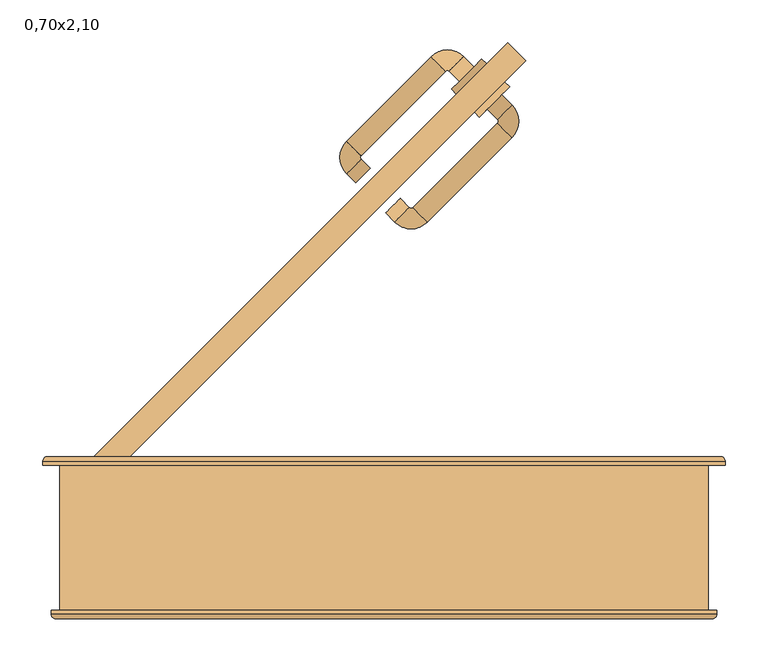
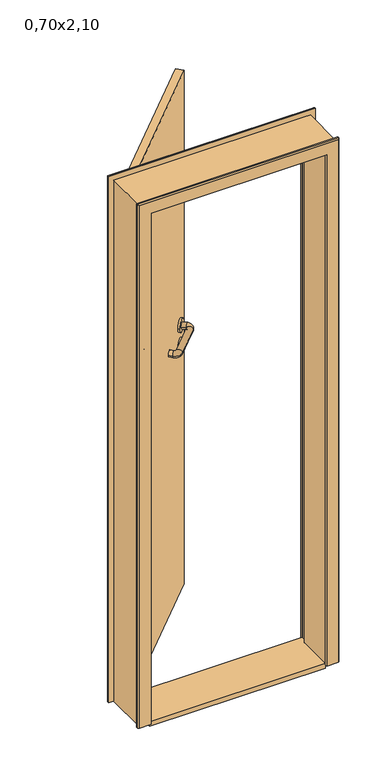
"""IFC4 building model written with IfcOpenShell, lengths in millimetres: door geometry, porta de abrir simples : 0,70x2,10."""

from ifc_helpers import new_model, si_unit, point, frame, frame_2d, origin, origin_with_axes, place, context, project, spatial, polyline, circle_curve, ellipse_curve, trimmed, segment, composite_curve, outline, extrude, faceted_brep, source, transform, mapped, element, save
from ifc_brep_helpers import plane_surface, cylinder_surface, revolved_surface, advanced_brep


def door_0_70x2_10_7b4c54ac(model_context):
    return source(origin(), model_context, "Body", "SolidModel", [
        advanced_brep(
        [(120.9331163, 502.1930009, 1100.0), (137.903679, 519.1635636, 1100.0), (132.9539315, 490.1721856, 1100.0), (149.9244943, 507.1427484, 1100.0), (149.9244943, 468.9589822, 1100.0), (132.9539315, 485.9295449, 1100.0), (33.9589822, 386.9345956, 1100.0), (50.9295449, 369.9640328, 1100.0), (12.7457787, 369.9640328, 1100.0), (29.7163415, 386.9345956, 1100.0), (19.1097398, 397.5411973, 1100.0), (2.139177, 380.5706345, 1100.0)],
        [
            (0, 1, circle_curve(frame((129.4183976, 510.6782823, 1100.0), z_axis=(-0.7071067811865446, 0.7071067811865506, 0.0), x_axis=(0.7071067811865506, 0.7071067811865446, 0.0)), 12.0)),
            (1, 0, circle_curve(frame((129.4183976, 510.6782823, 1100.0), z_axis=(-0.7071067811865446, 0.7071067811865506, 0.0), x_axis=(0.7071067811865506, 0.7071067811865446, 0.0)), 12.0)),
            (0, 2),
            (2, 3, circle_curve(frame((141.4392129, 498.657467, 1100.0), z_axis=(-0.7071067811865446, 0.7071067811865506, 0.0), x_axis=(0.7071067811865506, 0.7071067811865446, 0.0)), 12.0)),
            (3, 1),
            (3, 2, circle_curve(frame((141.4392129, 498.657467, 1100.0), z_axis=(-0.7071067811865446, 0.7071067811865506, 0.0), x_axis=(0.7071067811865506, 0.7071067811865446, 0.0)), 12.0)),
            (4, 3, circle_curve(frame((130.8326112, 488.0508653, 1100.0), z_axis=(0.0, 0.0, 1.0), x_axis=(0.7071067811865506, 0.7071067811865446, 0.0)), 27.0)),
            (2, 5, circle_curve(frame((130.8326112, 488.0508653, 1100.0), z_axis=(0.0, 0.0, -1.0), x_axis=(0.7071067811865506, 0.7071067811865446, 0.0)), 3.0)),
            (5, 4, circle_curve(frame((141.4392129, 477.4442636, 1100.0), z_axis=(0.7071067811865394, 0.7071067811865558, 0.0), x_axis=(0.7071067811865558, -0.7071067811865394, 0.0)), 12.0)),
            (4, 5, circle_curve(frame((141.4392129, 477.4442636, 1100.0), z_axis=(0.7071067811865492, 0.7071067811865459, 0.0), x_axis=(0.7071067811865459, -0.7071067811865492, 0.0)), 12.0)),
            (5, 6),
            (6, 7, circle_curve(frame((42.4442636, 378.4493142, 1100.0), z_axis=(0.7071067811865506, 0.7071067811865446, 0.0), x_axis=(0.7071067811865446, -0.7071067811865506, 0.0)), 12.0)),
            (7, 4),
            (7, 6, circle_curve(frame((42.4442636, 378.4493142, 1100.0), z_axis=(0.7071067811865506, 0.7071067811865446, 0.0), x_axis=(0.7071067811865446, -0.7071067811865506, 0.0)), 12.0)),
            (8, 7, circle_curve(frame((31.8376618, 389.0559159, 1100.0), z_axis=(0.0, 0.0, 1.0), x_axis=(0.7071067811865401, -0.707106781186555, 0.0)), 27.0)),
            (6, 9, circle_curve(frame((31.8376618, 389.0559159, 1100.0), z_axis=(0.0, 0.0, -1.0), x_axis=(0.7071067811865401, -0.707106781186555, 0.0)), 3.0)),
            (9, 8, circle_curve(frame((21.2310601, 378.4493142, 1100.0), z_axis=(0.7071067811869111, -0.7071067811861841, 0.0), x_axis=(-0.7071067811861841, -0.7071067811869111, 0.0)), 12.0)),
            (8, 9, circle_curve(frame((21.2310601, 378.4493142, 1100.0), z_axis=(0.7071067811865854, -0.7071067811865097, 0.0), x_axis=(-0.7071067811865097, -0.7071067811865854, 0.0)), 12.0)),
            (10, 11, circle_curve(frame((10.6244584, 389.0559159, 1100.0), z_axis=(-0.7071067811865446, 0.7071067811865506, 0.0), x_axis=(-0.7071067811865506, -0.7071067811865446, 0.0)), 12.0)),
            (11, 10, circle_curve(frame((10.6244584, 389.0559159, 1100.0), z_axis=(-0.7071067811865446, 0.7071067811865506, 0.0), x_axis=(-0.7071067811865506, -0.7071067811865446, 0.0)), 12.0)),
            (9, 10),
            (11, 8),
        ],
        [
            plane_surface(frame((724.8023074, 1106.062192, 1930.0), z_axis=(-0.7071067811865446, 0.7071067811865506, 0.0), x_axis=(0.0, 0.0, 1.0))),
            cylinder_surface(frame((129.4183976, 510.6782823, 1100.0), z_axis=(-0.7071067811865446, 0.7071067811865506, 0.0), x_axis=(0.7071067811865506, 0.7071067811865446, 0.0)), 12.0),
            revolved_surface(trimmed(ellipse_curve(frame((141.4392129, 498.657467, 1100.0), z_axis=(-0.7071067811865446, 0.7071067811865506, 0.0), x_axis=(0.7071067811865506, 0.7071067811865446, 0.0)), 12.0, 12.0), [point((132.9539315, 490.1721856, 1100.0))], [point((149.9244943, 507.1427484, 1100.0))], True, "CARTESIAN"), (130.8326112, 488.0508653, 1930.0), (0.0, 0.0, -1.0)),
            revolved_surface(trimmed(ellipse_curve(frame((141.4392129, 498.657467, 1100.0), z_axis=(-0.7071067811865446, 0.7071067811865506, 0.0), x_axis=(0.7071067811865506, 0.7071067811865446, 0.0)), 12.0, 12.0), [point((149.9244943, 507.1427484, 1100.0))], [point((132.9539315, 490.1721856, 1100.0))], True, "CARTESIAN"), (130.8326112, 488.0508653, 1930.0), (0.0, 0.0, -1.0)),
            cylinder_surface(frame((141.4392129, 477.4442636, 1100.0), z_axis=(0.7071067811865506, 0.7071067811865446, 0.0), x_axis=(0.7071067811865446, -0.7071067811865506, 0.0)), 12.0),
            revolved_surface(trimmed(ellipse_curve(frame((42.4442636, 378.4493142, 1100.0), z_axis=(0.707106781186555, 0.7071067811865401, 0.0), x_axis=(0.7071067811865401, -0.707106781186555, 0.0)), 12.0, 12.0), [point((33.9589822, 386.9345956, 1100.0))], [point((50.9295449, 369.9640328, 1100.0))], True, "CARTESIAN"), (31.8376618, 389.0559159, 1930.0), (0.0, 0.0, -1.0)),
            revolved_surface(trimmed(ellipse_curve(frame((42.4442636, 378.4493142, 1100.0), z_axis=(0.707106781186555, 0.7071067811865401, 0.0), x_axis=(0.7071067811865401, -0.707106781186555, 0.0)), 12.0, 12.0), [point((50.9295449, 369.9640328, 1100.0))], [point((33.9589822, 386.9345956, 1100.0))], True, "CARTESIAN"), (31.8376618, 389.0559159, 1930.0), (0.0, 0.0, -1.0)),
            plane_surface(frame((606.0083682, 984.4398257, 1930.0), z_axis=(-0.7071067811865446, 0.7071067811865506, 0.0), x_axis=(0.0, 0.0, -1.0))),
            cylinder_surface(frame((21.2310601, 378.4493142, 1100.0), z_axis=(0.7071067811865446, -0.7071067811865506, 0.0), x_axis=(-0.7071067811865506, -0.7071067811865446, 0.0)), 12.0),
        ],
        [
            (0, [[1, 2]]),
            (1, [[-1, 3, 4, 5]]),
            (1, [[-2, -5, 6, -3]]),
            (2, [[7, -4, 8, 9]]),
            (3, [[-8, -6, -7, 10]]),
            (4, [[-9, 11, 12, 13]]),
            (4, [[-10, -13, 14, -11]]),
            (5, [[15, -12, 16, 17]]),
            (6, [[-16, -14, -15, 18]]),
            (7, [[19, 20]]),
            (8, [[-17, 21, -20, 22]]),
            (8, [[-18, -22, -19, -21]]),
        ],
    ),
        extrude(outline(composite_curve([segment(trimmed(circle_curve(frame_2d((0.0, -25.0)), 25.0), [point((0.0, -50.0000001))], [point((0.0, 0.0))], False, "CARTESIAN"), True, "CONTINUOUS"), segment(trimmed(circle_curve(frame_2d((0.0, -25.0)), 25.0), [point((0.0, 0.0))], [point((0.0, -50.0000001))], False, "CARTESIAN"), True, "CONTINUOUS")], self_intersect=False)), frame((111.7407281, 493.0006127, 1020.0), z_axis=(-0.7071067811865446, 0.7071067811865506, 0.0), x_axis=(0.0, 0.0, -1.0)), (0.0, 0.0, 1.0), 8.0),
        extrude(outline(composite_curve([segment(trimmed(circle_curve(frame_2d((0.0, -25.0)), 25.0), [point((0.0, -50.0000001))], [point((0.0, 0.0))], False, "CARTESIAN"), True, "CONTINUOUS"), segment(trimmed(circle_curve(frame_2d((0.0, -25.0)), 25.0), [point((0.0, 0.0))], [point((0.0, -50.0000001))], False, "CARTESIAN"), True, "CONTINUOUS")], self_intersect=False)), frame((111.7407281, 493.0006127, 1100.0), z_axis=(-0.7071067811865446, 0.7071067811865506, 0.0), x_axis=(0.0, 0.0, -1.0)), (0.0, 0.0, 1.0), 8.0),
        advanced_brep(
        [(105.3767671, 551.6904756, 1100.0), (88.4062043, 534.7199128, 1100.0), (93.3559518, 563.7112909, 1100.0), (76.3853891, 546.7407281, 1100.0), (72.1427484, 546.7407281, 1100.0), (55.1721856, 563.7112909, 1100.0), (-43.8227637, 464.7163415, 1100.0), (-26.852201, 447.7457787, 1100.0), (-26.852201, 443.5031381, 1100.0), (-43.8227637, 426.5325753, 1100.0), (-33.216162, 415.9259736, 1100.0), (-16.2455993, 432.8965363, 1100.0)],
        [
            (0, 1, circle_curve(frame((96.8914857, 543.2051942, 1100.0), z_axis=(0.7071067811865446, -0.7071067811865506, 0.0), x_axis=(-0.7071067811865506, -0.7071067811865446, 0.0)), 12.0)),
            (1, 0, circle_curve(frame((96.8914857, 543.2051942, 1100.0), z_axis=(0.7071067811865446, -0.7071067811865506, 0.0), x_axis=(-0.7071067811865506, -0.7071067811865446, 0.0)), 12.0)),
            (0, 2),
            (2, 3, circle_curve(frame((84.8706704, 555.2260095, 1100.0), z_axis=(0.7071067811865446, -0.7071067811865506, 0.0), x_axis=(-0.7071067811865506, -0.7071067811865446, 0.0)), 12.0)),
            (3, 1),
            (3, 2, circle_curve(frame((84.8706704, 555.2260095, 1100.0), z_axis=(0.7071067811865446, -0.7071067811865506, 0.0), x_axis=(-0.7071067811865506, -0.7071067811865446, 0.0)), 12.0)),
            (4, 3, circle_curve(frame((74.2640687, 544.6194078, 1100.0), z_axis=(0.0, 0.0, -1.0), x_axis=(0.7071067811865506, 0.7071067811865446, 0.0)), 3.0)),
            (2, 5, circle_curve(frame((74.2640687, 544.6194078, 1100.0), z_axis=(0.0, 0.0, 1.0), x_axis=(0.7071067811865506, 0.7071067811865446, 0.0)), 27.0)),
            (5, 4, circle_curve(frame((63.657467, 555.2260095, 1100.0), z_axis=(0.7071067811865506, 0.7071067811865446, 0.0), x_axis=(0.7071067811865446, -0.7071067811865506, 0.0)), 12.0)),
            (4, 5, circle_curve(frame((63.657467, 555.2260095, 1100.0), z_axis=(0.7071067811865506, 0.7071067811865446, 0.0), x_axis=(0.7071067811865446, -0.7071067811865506, 0.0)), 12.0)),
            (5, 6),
            (6, 7, circle_curve(frame((-35.3374824, 456.2310601, 1100.0), z_axis=(0.7071067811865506, 0.7071067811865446, 0.0), x_axis=(0.7071067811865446, -0.7071067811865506, 0.0)), 12.0)),
            (7, 4),
            (7, 6, circle_curve(frame((-35.3374824, 456.2310601, 1100.0), z_axis=(0.7071067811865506, 0.7071067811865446, 0.0), x_axis=(0.7071067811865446, -0.7071067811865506, 0.0)), 12.0)),
            (8, 7, circle_curve(frame((-24.7308807, 445.6244584, 1100.0), z_axis=(0.0, 0.0, -1.0), x_axis=(-0.7071067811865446, 0.7071067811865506, 0.0)), 3.0)),
            (6, 9, circle_curve(frame((-24.7308807, 445.6244584, 1100.0), z_axis=(0.0, 0.0, 1.0), x_axis=(-0.7071067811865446, 0.7071067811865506, 0.0)), 27.0)),
            (9, 8, circle_curve(frame((-35.3374824, 435.0178567, 1100.0), z_axis=(-0.7071067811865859, 0.7071067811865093, 0.0), x_axis=(0.7071067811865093, 0.7071067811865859, 0.0)), 12.0)),
            (8, 9, circle_curve(frame((-35.3374824, 435.0178567, 1100.0), z_axis=(-0.7071067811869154, 0.7071067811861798, 0.0), x_axis=(0.7071067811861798, 0.7071067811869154, 0.0)), 12.0)),
            (10, 11, circle_curve(frame((-24.7308807, 424.411255, 1100.0), z_axis=(0.7071067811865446, -0.7071067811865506, 0.0), x_axis=(0.7071067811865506, 0.7071067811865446, 0.0)), 12.0)),
            (11, 10, circle_curve(frame((-24.7308807, 424.411255, 1100.0), z_axis=(0.7071067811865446, -0.7071067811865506, 0.0), x_axis=(0.7071067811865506, 0.7071067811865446, 0.0)), 12.0)),
            (9, 10),
            (11, 8),
        ],
        [
            plane_surface(frame((692.2753955, 1138.589104, 1930.0), z_axis=(0.7071067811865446, -0.7071067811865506, 0.0), x_axis=(0.0, 0.0, -1.0))),
            cylinder_surface(frame((96.8914857, 543.2051942, 1100.0), z_axis=(0.7071067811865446, -0.7071067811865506, 0.0), x_axis=(-0.7071067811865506, -0.7071067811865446, 0.0)), 12.0),
            revolved_surface(trimmed(ellipse_curve(frame((84.8706704, 555.2260095, 1100.0), z_axis=(0.7071067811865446, -0.7071067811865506, 0.0), x_axis=(-0.7071067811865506, -0.7071067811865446, 0.0)), 12.0, 12.0), [point((93.3559518, 563.7112909, 1100.0))], [point((76.3853891, 546.7407281, 1100.0))], True, "CARTESIAN"), (74.2640687, 544.6194078, 1930.0), (0.0, 0.0, 1.0)),
            revolved_surface(trimmed(ellipse_curve(frame((84.8706704, 555.2260095, 1100.0), z_axis=(0.7071067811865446, -0.7071067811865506, 0.0), x_axis=(-0.7071067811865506, -0.7071067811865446, 0.0)), 12.0, 12.0), [point((76.3853891, 546.7407281, 1100.0))], [point((93.3559518, 563.7112909, 1100.0))], True, "CARTESIAN"), (74.2640687, 544.6194078, 1930.0), (0.0, 0.0, 1.0)),
            cylinder_surface(frame((63.657467, 555.2260095, 1100.0), z_axis=(0.7071067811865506, 0.7071067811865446, 0.0), x_axis=(0.7071067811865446, -0.7071067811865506, 0.0)), 12.0),
            revolved_surface(trimmed(ellipse_curve(frame((-35.3374824, 456.2310601, 1100.0), z_axis=(0.7071067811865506, 0.7071067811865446, 0.0), x_axis=(0.7071067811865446, -0.7071067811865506, 0.0)), 12.0, 12.0), [point((-43.8227637, 464.7163415, 1100.0))], [point((-26.852201, 447.7457787, 1100.0))], True, "CARTESIAN"), (-24.7308807, 445.6244584, 1930.0), (0.0, 0.0, 1.0)),
            revolved_surface(trimmed(ellipse_curve(frame((-35.3374824, 456.2310601, 1100.0), z_axis=(0.7071067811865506, 0.7071067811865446, 0.0), x_axis=(0.7071067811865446, -0.7071067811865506, 0.0)), 12.0, 12.0), [point((-26.852201, 447.7457787, 1100.0))], [point((-43.8227637, 464.7163415, 1100.0))], True, "CARTESIAN"), (-24.7308807, 445.6244584, 1930.0), (0.0, 0.0, 1.0)),
            plane_surface(frame((570.6530291, 1019.7951647, 1930.0), z_axis=(0.7071067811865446, -0.7071067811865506, 0.0), x_axis=(0.0, 0.0, 1.0))),
            cylinder_surface(frame((-35.3374824, 435.0178567, 1100.0), z_axis=(-0.7071067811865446, 0.7071067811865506, 0.0), x_axis=(0.7071067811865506, 0.7071067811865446, 0.0)), 12.0),
        ],
        [
            (0, [[1, 2]]),
            (1, [[-1, 3, 4, 5]]),
            (1, [[-2, -5, 6, -3]]),
            (2, [[7, -4, 8, 9]]),
            (3, [[-8, -6, -7, 10]]),
            (4, [[-9, 11, 12, 13]]),
            (4, [[-10, -13, 14, -11]]),
            (5, [[15, -12, 16, 17]]),
            (6, [[-16, -14, -15, 18]]),
            (7, [[19, 20]]),
            (8, [[-17, 21, -20, 22]]),
            (8, [[-18, -22, -19, -21]]),
        ],
    ),
        extrude(outline(composite_curve([segment(trimmed(circle_curve(frame_2d((0.0, -25.0000001)), 25.0), [point((0.0, -50.0000001))], [point((0.0, 0.0))], False, "CARTESIAN"), True, "CONTINUOUS"), segment(trimmed(circle_curve(frame_2d((0.0, -25.0000001)), 25.0), [point((0.0, 0.0))], [point((0.0, -50.0000001))], False, "CARTESIAN"), True, "CONTINUOUS")], self_intersect=False)), frame((84.8706704, 519.8706704, 1020.0), z_axis=(-0.7071067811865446, 0.7071067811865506, 0.0), x_axis=(0.0, 0.0, -1.0)), (0.0, 0.0, 1.0), 8.0),
        extrude(outline(composite_curve([segment(trimmed(circle_curve(frame_2d((0.0, -25.0000001)), 25.0), [point((0.0, -50.0000001))], [point((0.0, 0.0))], False, "CARTESIAN"), True, "CONTINUOUS"), segment(trimmed(circle_curve(frame_2d((0.0, -25.0000001)), 25.0), [point((0.0, 0.0))], [point((0.0, -50.0000001))], False, "CARTESIAN"), True, "CONTINUOUS")], self_intersect=False)), frame((84.8706704, 519.8706704, 1100.0), z_axis=(-0.7071067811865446, 0.7071067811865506, 0.0), x_axis=(0.0, 0.0, -1.0)), (0.0, 0.0, 1.0), 8.0),
        advanced_brep(
        [(-390.0, -85.0, 0.0), (-340.0, -85.0, 0.0), (-340.0, -95.0, 0.0), (-385.0, -95.0, 0.0), (-390.0, -90.0, 0.0), (-390.0, -85.0, 2140.0), (390.0, -85.0, 2140.0), (390.0, -85.0, 0.0), (340.0, -85.0, 0.0), (340.0, -85.0, 2090.0), (-340.0, -85.0, 2090.0), (-340.0, -95.0, 2090.0), (340.0, -95.0, 2090.0), (340.0, -95.0, 0.0), (385.0, -95.0, 0.0), (385.0, -95.0, 2135.0), (-385.0, -95.0, 2135.0), (-390.0, -90.0, 2140.0), (390.0, -90.0, 2140.0), (390.0, -90.0, 0.0)],
        [
            (0, 1),
            (1, 2),
            (2, 3),
            (3, 4, circle_curve(frame((-385.0, -90.0, 0.0), z_axis=(0.0, 0.0, -1.0), x_axis=(0.0, -1.0, 0.0)), 5.0)),
            (4, 0),
            (0, 5),
            (5, 6),
            (6, 7),
            (7, 8),
            (8, 9),
            (9, 10),
            (10, 1),
            (10, 11),
            (11, 2),
            (11, 12),
            (12, 13),
            (13, 14),
            (14, 15),
            (15, 16),
            (16, 3),
            (16, 17, ellipse_curve(frame((-385.0, -90.0, 2135.0), z_axis=(-0.7071067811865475, 0.0, -0.7071067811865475), x_axis=(0.7071067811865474, 0.0, -0.7071067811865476)), 7.0710678, 5.0)),
            (17, 4),
            (17, 5),
            (6, 18),
            (18, 19),
            (19, 7),
            (19, 14, circle_curve(frame((385.0, -90.0, 0.0), z_axis=(0.0, 0.0, -1.0), x_axis=(0.0, -1.0, 0.0)), 5.0)),
            (13, 8),
            (12, 9),
            (18, 15, ellipse_curve(frame((385.0, -90.0, 2135.0), z_axis=(0.7071067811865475, 0.0, -0.7071067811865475), x_axis=(0.7071067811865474, 0.0, 0.7071067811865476)), 7.0710678, 5.0)),
            (18, 17),
        ],
        [
            plane_surface(frame((-380.0, -85.0, 0.0), z_axis=(0.0, 0.0, -1.0), x_axis=(0.0, -1.0, 0.0))),
            plane_surface(frame((-390.0, -85.0, 0.0), z_axis=(0.0, 1.0, 0.0), x_axis=(0.0, 0.0, 1.0))),
            plane_surface(frame((-340.0, -85.0, 0.0), z_axis=(1.0, 0.0, 0.0), x_axis=(0.0, 0.0, 1.0))),
            plane_surface(frame((-340.0, -95.0, 0.0), z_axis=(0.0, -1.0, 0.0), x_axis=(0.0, 0.0, 1.0))),
            cylinder_surface(frame((-385.0, -90.0, 0.0), z_axis=(0.0, 0.0, -1.0), x_axis=(0.0, -1.0, 0.0)), 5.0),
            plane_surface(frame((-390.0, -90.0, 0.0), z_axis=(-1.0, 0.0, 0.0), x_axis=(0.0, 0.0, 1.0))),
            plane_surface(frame((390.0, -90.0, 2140.0), z_axis=(1.0, 0.0, 0.0), x_axis=(0.0, 0.0, -1.0))),
            plane_surface(frame((380.0, -85.0, 0.0), z_axis=(0.0, 0.0, -1.0), x_axis=(0.0, -1.0, 0.0))),
            plane_surface(frame((340.0, -85.0, 2090.0), z_axis=(-1.0, 0.0, 0.0), x_axis=(0.0, 0.0, -1.0))),
            cylinder_surface(frame((385.0, -90.0, 2130.0), z_axis=(0.0, 0.0, 1.0), x_axis=(0.0, -1.0, 0.0)), 5.0),
            plane_surface(frame((-340.0, -85.0, 2090.0), z_axis=(0.0, 0.0, -1.0), x_axis=(1.0, 0.0, 0.0))),
            cylinder_surface(frame((-380.0, -90.0, 2135.0), z_axis=(-1.0, 0.0, 0.0), x_axis=(0.0, -1.0, 0.0)), 5.0),
            plane_surface(frame((-390.0, -90.0, 2140.0), z_axis=(0.0, 0.0, 1.0), x_axis=(1.0, 0.0, 0.0))),
        ],
        [
            (0, [[1, 2, 3, 4, 5]]),
            (1, [[-1, 6, 7, 8, 9, 10, 11, 12]]),
            (2, [[-2, -12, 13, 14]]),
            (3, [[-3, -14, 15, 16, 17, 18, 19, 20]]),
            (4, [[-4, -20, 21, 22]]),
            (5, [[-5, -22, 23, -6]]),
            (6, [[24, 25, 26, -8]]),
            (7, [[-26, 27, -17, 28, -9]]),
            (8, [[29, -10, -28, -16]]),
            (9, [[30, -18, -27, -25]]),
            (10, [[-13, -11, -29, -15]]),
            (11, [[-21, -19, -30, 31]]),
            (12, [[-23, -31, -24, -7]]),
        ],
    ),
        advanced_brep(
        [(400.0, 85.0, 0.0), (350.0, 85.0, 0.0), (350.0, 95.0, 0.0), (394.1699538, 95.0, 0.0), (400.0, 89.1699538, 0.0), (400.0, 85.0, 2150.0), (-400.0, 85.0, 2150.0), (-400.0, 85.0, 0.0), (-350.0, 85.0, 0.0), (-350.0, 85.0, 2100.0), (350.0, 85.0, 2100.0), (350.0, 95.0, 2100.0), (-350.0, 95.0, 2100.0), (-350.0, 95.0, 0.0), (-394.1699538, 95.0, 0.0), (-394.1699538, 95.0, 2144.1699538), (394.1699538, 95.0, 2144.1699538), (400.0, 89.1699538, 2150.0), (-400.0, 89.1699538, 2150.0), (-400.0, 89.1699538, 0.0)],
        [
            (0, 1),
            (1, 2),
            (2, 3),
            (3, 4, circle_curve(frame((394.1699538, 89.1699538, 0.0), z_axis=(0.0, 0.0, -1.0), x_axis=(0.0, -1.0, 0.0)), 5.8300462)),
            (4, 0),
            (0, 5),
            (5, 6),
            (6, 7),
            (7, 8),
            (8, 9),
            (9, 10),
            (10, 1),
            (10, 11),
            (11, 2),
            (11, 12),
            (12, 13),
            (13, 14),
            (14, 15),
            (15, 16),
            (16, 3),
            (16, 17, ellipse_curve(frame((394.1699538, 89.1699538, 2144.1699538), z_axis=(0.7071067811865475, 0.0, -0.7071067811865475), x_axis=(-0.7071067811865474, 0.0, -0.7071067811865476)), 8.2449304, 5.8300462)),
            (17, 4),
            (17, 5),
            (6, 18),
            (18, 19),
            (19, 7),
            (19, 14, circle_curve(frame((-394.1699538, 89.1699538, 0.0), z_axis=(0.0, 0.0, -1.0), x_axis=(0.0, -1.0, 0.0)), 5.8300462)),
            (13, 8),
            (12, 9),
            (18, 15, ellipse_curve(frame((-394.1699538, 89.1699538, 2144.1699538), z_axis=(-0.7071067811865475, 0.0, -0.7071067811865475), x_axis=(-0.7071067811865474, 0.0, 0.7071067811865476)), 8.2449304, 5.8300462)),
            (18, 17),
        ],
        [
            plane_surface(frame((380.0, 85.0, 0.0), z_axis=(0.0, 0.0, -1.0), x_axis=(0.0, -1.0, 0.0))),
            plane_surface(frame((400.0, 85.0, 0.0), z_axis=(0.0, -1.0, 0.0), x_axis=(0.0, 0.0, 1.0))),
            plane_surface(frame((350.0, 85.0, 0.0), z_axis=(-1.0, 0.0, 0.0), x_axis=(0.0, 0.0, 1.0))),
            plane_surface(frame((350.0, 95.0, 0.0), z_axis=(0.0, 1.0, 0.0), x_axis=(0.0, 0.0, 1.0))),
            cylinder_surface(frame((394.1699538, 89.1699538, 0.0), z_axis=(0.0, 0.0, -1.0), x_axis=(0.0, -1.0, 0.0)), 5.8300462),
            plane_surface(frame((400.0, 89.1699538, 0.0), z_axis=(1.0, 0.0, 0.0), x_axis=(0.0, 0.0, 1.0))),
            plane_surface(frame((-400.0, 89.1699538, 2150.0), z_axis=(-1.0, 0.0, 0.0), x_axis=(0.0, 0.0, -1.0))),
            plane_surface(frame((-380.0, 85.0, 0.0), z_axis=(0.0, 0.0, -1.0), x_axis=(0.0, -1.0, 0.0))),
            plane_surface(frame((-350.0, 85.0, 2100.0), z_axis=(1.0, 0.0, 0.0), x_axis=(0.0, 0.0, -1.0))),
            cylinder_surface(frame((-394.1699538, 89.1699538, 2130.0), z_axis=(0.0, 0.0, 1.0), x_axis=(0.0, -1.0, 0.0)), 5.8300462),
            plane_surface(frame((350.0, 85.0, 2100.0), z_axis=(0.0, 0.0, -1.0), x_axis=(-1.0, 0.0, 0.0))),
            cylinder_surface(frame((380.0, 89.1699538, 2144.1699538), z_axis=(1.0, 0.0, 0.0), x_axis=(0.0, -1.0, 0.0)), 5.8300462),
            plane_surface(frame((400.0, 89.1699538, 2150.0), z_axis=(0.0, 0.0, 1.0), x_axis=(-1.0, 0.0, 0.0))),
        ],
        [
            (0, [[1, 2, 3, 4, 5]]),
            (1, [[-1, 6, 7, 8, 9, 10, 11, 12]]),
            (2, [[-2, -12, 13, 14]]),
            (3, [[-3, -14, 15, 16, 17, 18, 19, 20]]),
            (4, [[-4, -20, 21, 22]]),
            (5, [[-5, -22, 23, -6]]),
            (6, [[24, 25, 26, -8]]),
            (7, [[-26, 27, -17, 28, -9]]),
            (8, [[29, -10, -28, -16]]),
            (9, [[30, -18, -27, -25]]),
            (10, [[-13, -11, -29, -15]]),
            (11, [[-21, -19, -30, 31]]),
            (12, [[-23, -31, -24, -7]]),
        ],
    ),
        faceted_brep([(380.0, -85.0, 0.0), (340.0, -85.0, 0.0), (340.0, 55.0, 0.0), (350.0, 55.0, 0.0), (350.0, 85.0, 0.0), (380.0, 85.0, 0.0), (380.0, -85.0, 2130.0), (-380.0, -85.0, 2130.0), (-380.0, -85.0, 0.0), (-340.0, -85.0, 0.0), (-340.0, -85.0, 2090.0), (340.0, -85.0, 2090.0), (340.0, 55.0, 2090.0), (-340.0, 55.0, 2090.0), (-340.0, 55.0, 0.0), (-350.0, 55.0, 0.0), (-350.0, 55.0, 2100.0), (350.0, 55.0, 2100.0), (350.0, 85.0, 2100.0), (-350.0, 85.0, 2100.0), (-350.0, 85.0, 0.0), (-380.0, 85.0, 0.0), (-380.0, 85.0, 2130.0), (380.0, 85.0, 2130.0)], [[[0, 1, 2, 3, 4, 5]], [[1, 0, 6, 7, 8, 9, 10, 11]], [[2, 1, 11, 12]], [[3, 2, 12, 13, 14, 15, 16, 17]], [[4, 3, 17, 18]], [[5, 4, 18, 19, 20, 21, 22, 23]], [[0, 5, 23, 6]], [[7, 22, 21, 8]], [[8, 21, 20, 15, 14, 9]], [[13, 10, 9, 14]], [[19, 16, 15, 20]], [[12, 11, 10, 13]], [[18, 17, 16, 19]], [[6, 23, 22, 7]]]),
        extrude(outline(polyline([(-350.0, 85.0), (350.0, 85.0), (350.0, 55.0), (340.0, 55.0), (340.0, -85.0), (-340.0, -85.0), (-340.0, 55.0), (-350.0, 55.0), (-350.0, 85.0)])), frame((0.0, 0.0, -15.0), z_axis=(0.0, 0.0, 1.0), x_axis=(1.0, 0.0, 0.0)), (0.0, 0.0, 1.0), 20.0),
        extrude(outline(polyline([(144.9747468, 579.9747468), (166.1879503, 558.7615434), (-328.7867966, 63.7867966), (-350.0, 85.0), (144.9747468, 579.9747468)])), origin_with_axes(), (0.0, 0.0, 1.0), 2100.0),
    ])


if __name__ == "__main__":
    model = new_model("IFC4")
    model_context = context("Model", 3, world=origin())
    ifc_project = project(units=[si_unit("LENGTHUNIT", "METRE", prefix="MILLI")], contexts=[model_context])
    site = spatial("IfcSite", under=ifc_project)
    building = spatial("IfcBuilding", under=site)
    placement = place(None, origin())
    door_0_70x2_10_shape = door_0_70x2_10_7b4c54ac(model_context)
    element("IfcDoor", 1, ObjectType="porta de abrir simples : 0,70x2,10", at=placement, inside=building, context=model_context, shape_type="MappedRepresentation", body=[
        mapped(door_0_70x2_10_shape, transform((0.0, 0.0, 0.0), x_axis=(1.0, 0.0, 0.0), y_axis=(0.0, 1.0, 0.0), z_axis=(0.0, 0.0, 1.0))),
    ])
    save(model, "model.ifc")
